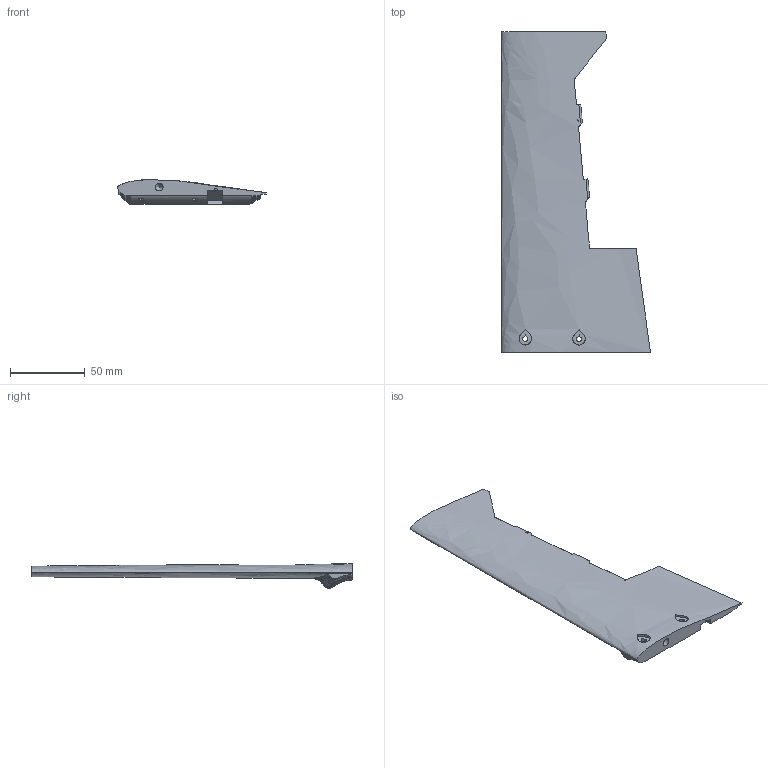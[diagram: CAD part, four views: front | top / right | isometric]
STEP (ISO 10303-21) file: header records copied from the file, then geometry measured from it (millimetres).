
FILE_DESCRIPTION(('SkyG Speed 90B - revision C6B-24 - 2026-10-17','WR-wing-right'),'2;1');
FILE_NAME('WR-wing-right_C6B-24','2026-10-17T13:26:39',('Author'),( 'Open CASCADE'),'Open CASCADE STEP processor 7.9','Open CASCADE 7.9' ,'Unknown');
FILE_SCHEMA(('AUTOMOTIVE_DESIGN { 1 0 10303 214 1 1 1 1 }'));
Products named in the file (1): WR-wing-right C6B-24
Bounding box: 99.95 x 215 x 16.57 mm (x, y, z)
Volume: 97785.9 mm3; surface area: 35206 mm2
Topology: 1 solids, 2 shells, 747 faces, 1651 edges, 908 vertices
Faces by surface type: bspline 662, plane 68, cylinder 15, cone 2
Full cylindrical faces by diameter (mm): 1.65 x1, 1.75 x2, 2.1 x1, 5.2 x1
Entity records: 49965 total; most frequent: CARTESIAN_POINT 21247, DIRECTION 3390, ORIENTED_EDGE 3302, PCURVE 3302, DEFINITIONAL_REPRESENTATION 3302, LINE 3049, VECTOR 3049, B_SPLINE_CURVE_WITH_KNOTS 1786
